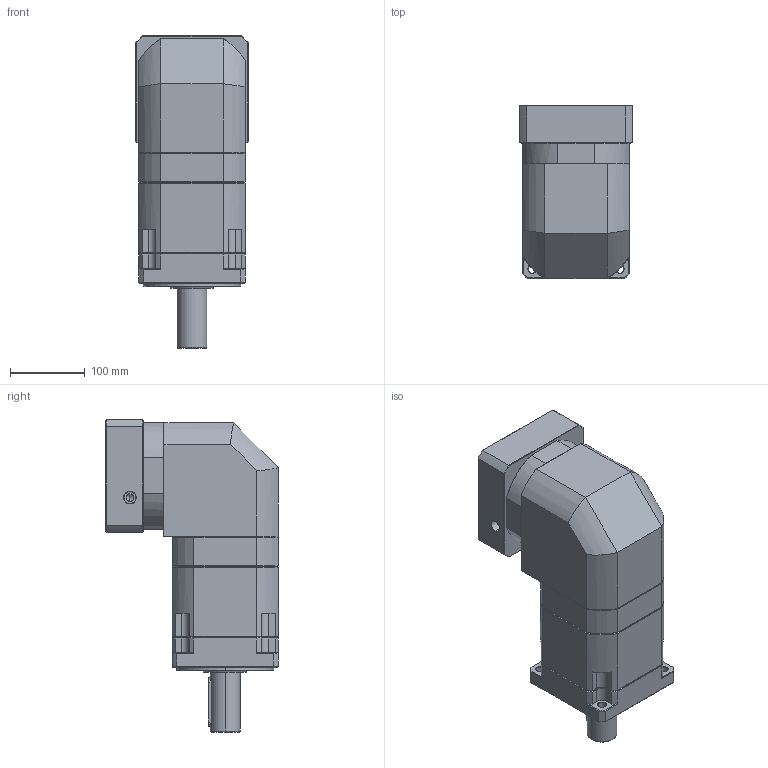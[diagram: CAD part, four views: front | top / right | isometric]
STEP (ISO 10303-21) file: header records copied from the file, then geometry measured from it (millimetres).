
FILE_DESCRIPTION (( 'STEP AP214' ), '1' );
FILE_NAME ('ZBR142A-D40-L3-P2-28-130-174-M10.step', '2023-09-02T07:13:32', ( '' ), ( '' ), 'SwSTEP 2.0', 'SolidWorks 2016', '' );
FILE_SCHEMA (( 'AUTOMOTIVE_DESIGN' ));
Length unit declared in the file: millimetre
Products named in the file (1): ZBR142A-D40-L3-P2-28-130-174-M10
Bounding box: 150 x 231 x 417.7 mm (x, y, z)
Volume: 7013664.2 mm3; surface area: 440613.4 mm2
Topology: 6 solids, 6 shells, 2337 faces, 6154 edges, 3924 vertices
Faces by surface type: plane 1132, cylinder 428, bspline 415, cone 340, torus 22
Entity records: 131499 total; most frequent: CARTESIAN_POINT 51549, ORIENTED_EDGE 12248, DIRECTION 9669, EDGE_CURVE 6124, VERTEX_POINT 3924, LINE 3923, VECTOR 3923, AXIS2_PLACEMENT_3D 2873
